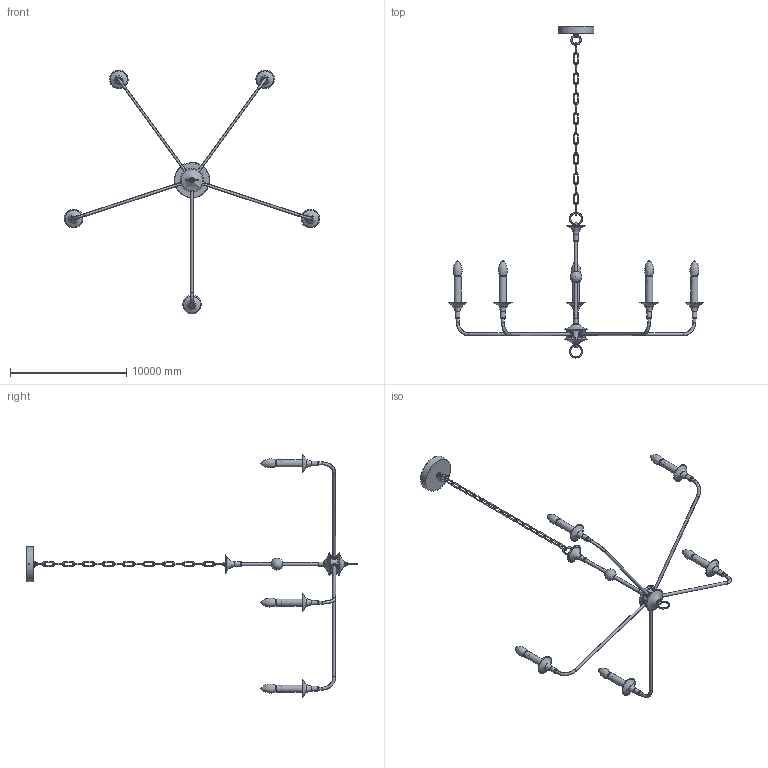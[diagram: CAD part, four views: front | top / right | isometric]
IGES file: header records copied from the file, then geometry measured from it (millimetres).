
Global section: file name: Cecil Chandelier-5heads; native system: AutoCAD 2022 - 简体中文 (Simplified Chinese),62HAuto; preprocessor: desk Translation Framework DWG producer (atf_dwg_producer); organization: unknown; date: 20251129.083438; units: inch
Bounding box: 21997.75 x 28590.72 x 20999.44 mm (x, y, z)
Volume: 6568514871.9 mm3; surface area: 283263677.3 mm2
Topology: 63 solids, 68 shells, 418 faces, 906 edges, 608 vertices
Faces by surface type: bspline 418
